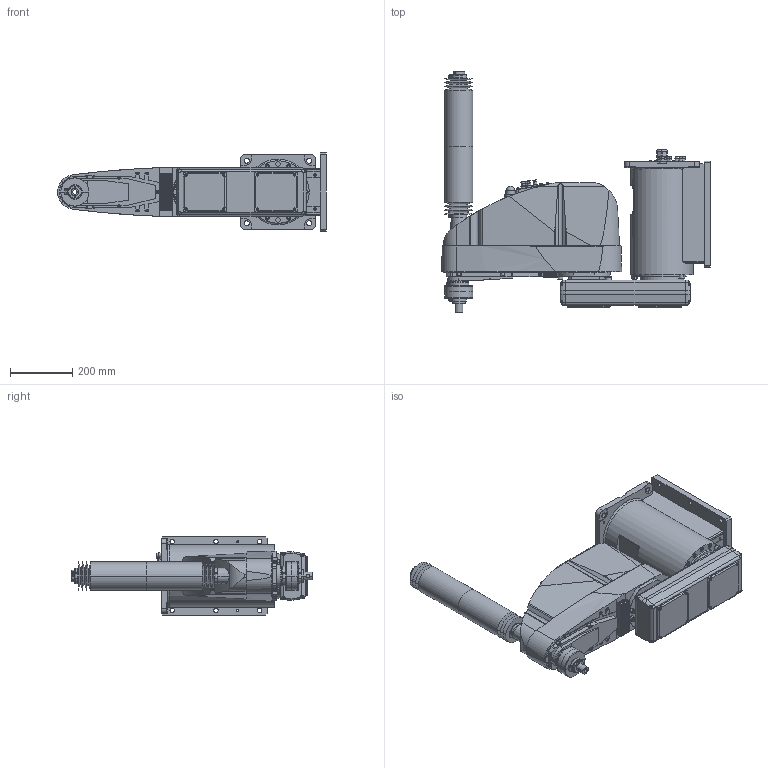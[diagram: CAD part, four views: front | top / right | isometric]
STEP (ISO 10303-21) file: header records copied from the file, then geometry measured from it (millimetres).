
FILE_DESCRIPTION( ( '' ), '1' );
FILE_NAME( '//expscmdclustefs.cadenas.external/client_exchange/iodir/jobs/output/wkb51513160_no0/STEP/G10_654CW_2_14b.stp', '2012-11-22T15:54:45', ( '' ), ( '' ), ' ', ' ', ' ' );
FILE_SCHEMA( ( 'automotive_design' ) );
Length unit declared in the file: millimetre
Products named in the file (8): 1; 2; 3; 4; 5; 6; 7; 8
Bounding box: 860.5 x 774 x 250 mm (x, y, z)
Volume: 42487509 mm3; surface area: 1804993.7 mm2
Topology: 8 solids, 8 shells, 2230 faces, 5452 edges, 3537 vertices
Faces by surface type: plane 1196, cylinder 750, cone 250, torus 33, sphere 1
Entity records: 130639 total; most frequent: CARTESIAN_POINT 13646, DIRECTION 11633, STYLED_ITEM 11219, PRESENTATION_STYLE_ASSIGNMENT 11219, COLOUR_RGB 11219, ORIENTED_EDGE 10888, EDGE_CURVE 5444, CURVE_STYLE 5444
